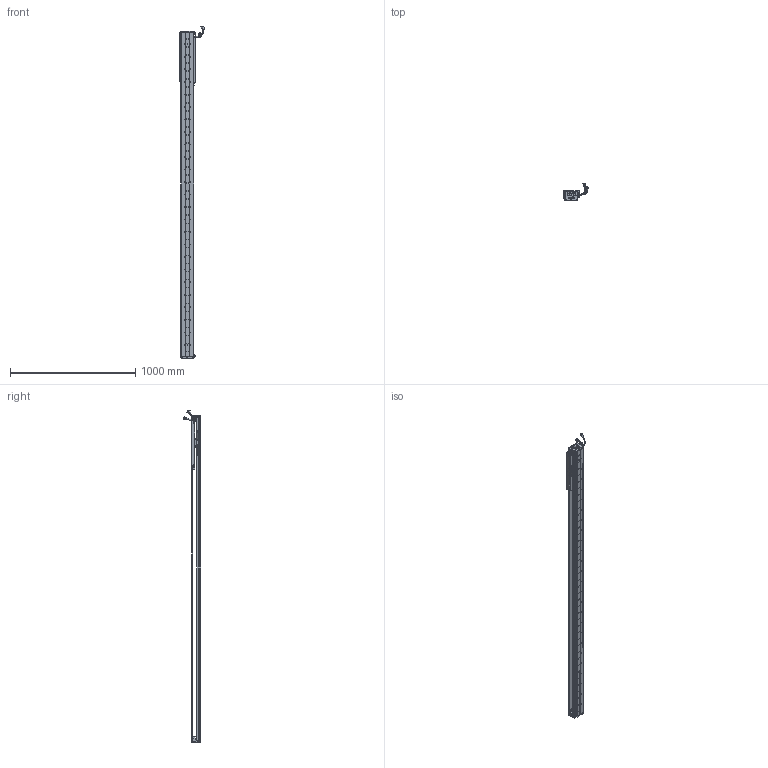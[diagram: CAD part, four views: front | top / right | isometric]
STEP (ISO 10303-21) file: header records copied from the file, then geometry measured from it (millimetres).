
FILE_DESCRIPTION (( 'STEP AP203' ), '1' );
FILE_NAME ('Z5-RY100D-1-L500-B-K.SLDASM_2150.step', '2021-05-17T03:34:34', ( '盈信电脑' ), ( '东莞市道滘镇水果街19号' ), 'SwSTEP 2.0', 'SolidWorks 2016', '' );
FILE_SCHEMA (( 'CONFIG_CONTROL_DESIGN' ));
Length unit declared in the file: millimetre
Products named in the file (36): 080黍杅芛假蚾釱21遴; SCALE-Part-1; COVER-Part-1; HOLDER0; Z5-RY100铝滑块（21款）; 100-Z-臏賑輸盄裔(21遴); Z5-RY100D-500-倰第菁釱_2150; 140雄赽晤鎢ん堤盄; SCREW-M1.6; HARNESS-Part-1; SEAL-Part-1; SCALE; 140蚥薯蝶輸; SCREW-M1.6-1; 覜茼ん672; HARNESS; HARNESS-Part-2; COVER; SCREW-M1.6-3; SCALE-Part-2; Z-100詩湍傷裔啣; SCREW-M1.7-1; PSLH080_PSLF2; Z-RY100D詩湍奻揤裔; SCREW-M1.6-2; Z5-RY100D-1-L500-B-K.SLDASM_2150; LABEL-Part-1; Z5-RY100-L500詩湍90mm遵_2150; SCREW-M1.7; SEAL; LABEL; 榋妏寠巭燃_暯_M2_2; Z-RY100D詩湍狟揤裔; Z-RY100D覜茼んえ; SHIELDPLATE; PBU_SHEET
Assembly tree (43 placements, depth 4):
  Z5-RY100D-1-L500-B-K.SLDASM_2150
    Z5-RY100D-500-倰第菁釱_2150
    Z5-RY100铝滑块（21款）
    PSLH080_PSLF2
      SCALE
        SCALE-Part-1
        SCALE-Part-2
      HARNESS
        HARNESS-Part-1
        HARNESS-Part-2
      LABEL
        LABEL-Part-1
      COVER
        COVER-Part-1
      SEAL
        SEAL-Part-1
      榋妏寠巭燃_暯_M2_2
      SHIELDPLATE
      SCREW-M1.7
      SCREW-M1.7-1
      PBU_SHEET
      SCREW-M1.6
      SCREW-M1.6-1
      SCREW-M1.6-2
      SCREW-M1.6-3
      HOLDER0
    080黍杅芛假蚾釱21遴
    Z-100詩湍傷裔啣  x2
    140蚥薯蝶輸  x2
    覜茼ん672  x3
    Z-RY100D覜茼んえ  x3
    100-Z-臏賑輸盄裔(21遴)
    140雄赽晤鎢ん堤盄
    Z5-RY100-L500詩湍90mm遵_2150
    Z-RY100D詩湍狟揤裔  x2
    Z-RY100D詩湍奻揤裔  x2
Bounding box: 205.79 x 136.11 x 2650.43 mm (x, y, z)
Volume: 5070838.9 mm3; surface area: 1960552.9 mm2
Topology: 38 solids, 38 shells, 2995 faces, 8155 edges, 5204 vertices
Faces by surface type: cylinder 1466, plane 1181, cone 226, torus 69, bspline 53
Entity records: 86465 total; most frequent: CARTESIAN_POINT 18091, DIRECTION 13945, ORIENTED_EDGE 13190, EDGE_CURVE 6595, AXIS2_PLACEMENT_3D 5242, VERTEX_POINT 4272, LINE 3461, VECTOR 3461
